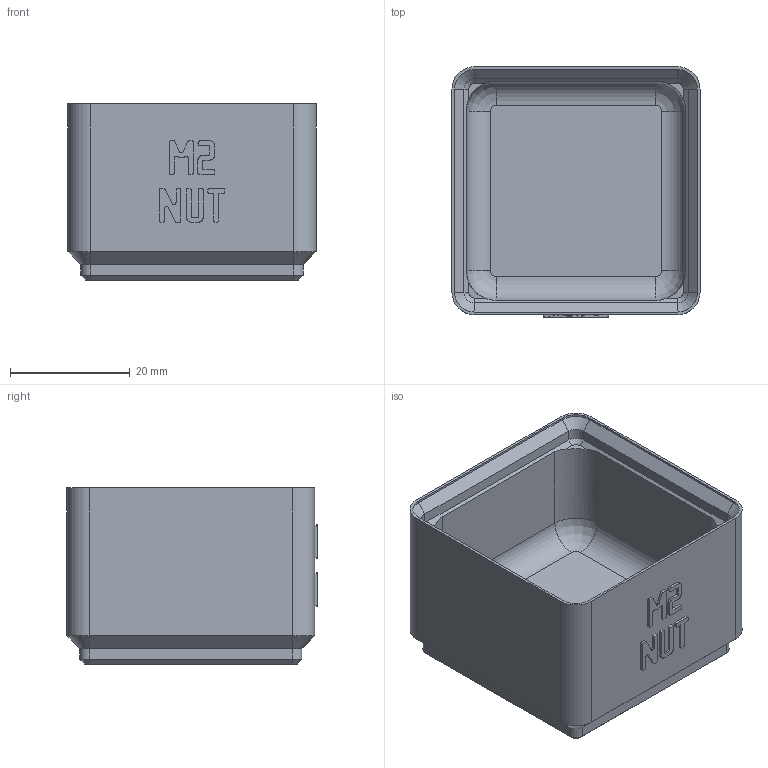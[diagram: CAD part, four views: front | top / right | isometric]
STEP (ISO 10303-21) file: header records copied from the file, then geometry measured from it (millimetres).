
FILE_DESCRIPTION(('Open CASCADE Model'),'2;1');
FILE_NAME('Open CASCADE Shape Model','2026-11-03T10:23:40',('Author'),( 'Open CASCADE'),'Open CASCADE STEP processor 8.0','build123d', 'Unknown');
FILE_SCHEMA(('AUTOMOTIVE_DESIGN { 1 0 10303 214 1 1 1 1 }'));
Length unit declared in the file: millimetre
Products named in the file (1): COMPOUND
Bounding box: 41.5 x 41.9 x 29.5 mm (x, y, z)
Volume: 18936.1 mm3; surface area: 10633.6 mm2
Topology: 1 solids, 1 shells, 547 faces, 1561 edges, 1022 vertices
Faces by surface type: plane 503, cylinder 24, cone 16, revolution 4
Entity records: 36740 total; most frequent: CARTESIAN_POINT 7519, DIRECTION 4717, LINE 3469, VECTOR 3469, ORIENTED_EDGE 3122, PCURVE 3122, DEFINITIONAL_REPRESENTATION 3122, EDGE_CURVE 1561
